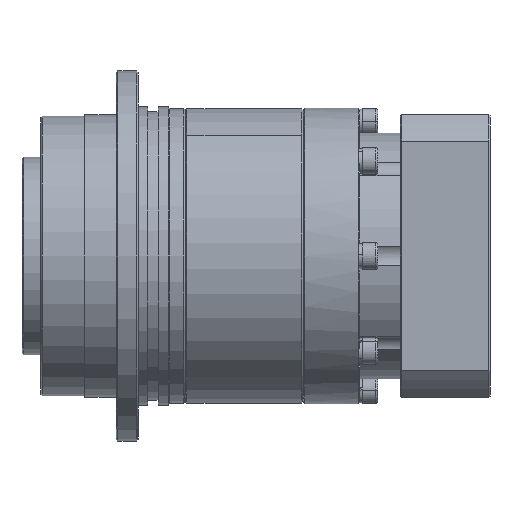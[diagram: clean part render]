
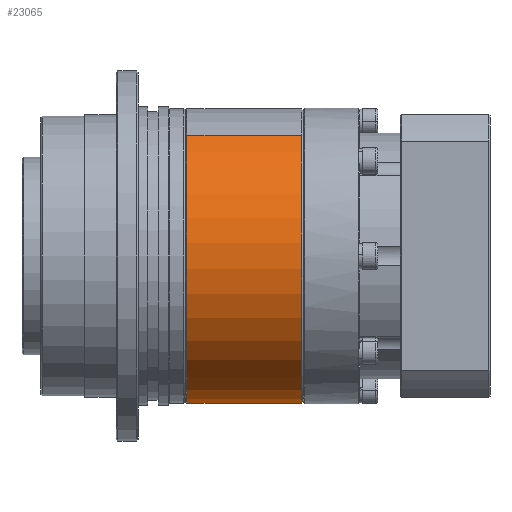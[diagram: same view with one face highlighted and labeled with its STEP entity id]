
A CAD part, front view. The second image highlights one B-rep face of the part: STEP entity #23065.
In plain terms, the highlighted cylindrical face has radius 47 mm (diameter 94 mm), a partial arc.
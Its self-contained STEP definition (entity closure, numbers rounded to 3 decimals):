
#288 = CARTESIAN_POINT ( 'NONE',  ( 0.5, 0., -47. ) ) ;
#825 = VERTEX_POINT ( 'NONE', #9344 ) ;
#2259 = ORIENTED_EDGE ( 'NONE', *, *, #18916, .T. ) ;
#2665 = CARTESIAN_POINT ( 'NONE',  ( 0., 0., -47. ) ) ;
#3156 = CIRCLE ( 'NONE', #10656, 47. ) ;
#3670 = ORIENTED_EDGE ( 'NONE', *, *, #22212, .T. ) ;
#4057 = DIRECTION ( 'NONE',  ( -1., 0., 0. ) ) ;
#4683 = AXIS2_PLACEMENT_3D ( 'NONE', #14955, #4057, #18686 ) ;
#5079 = CARTESIAN_POINT ( 'NONE',  ( 0., 0., 0. ) ) ;
#5735 = EDGE_CURVE ( 'NONE', #18193, #20914, #6300, .T. ) ;
#6300 = LINE ( 'NONE', #17846, #16964 ) ;
#6634 = DIRECTION ( 'NONE',  ( 0., 0., 1. ) ) ;
#8159 = DIRECTION ( 'NONE',  ( -1., 0., 0. ) ) ;
#8174 = DIRECTION ( 'NONE',  ( 0., 0., 1. ) ) ;
#8544 = CIRCLE ( 'NONE', #4683, 47. ) ;
#8781 = DIRECTION ( 'NONE',  ( -1., 0., 0. ) ) ;
#9344 = CARTESIAN_POINT ( 'NONE',  ( 37., -47., 0. ) ) ;
#10104 = CARTESIAN_POINT ( 'NONE',  ( 0.5, 0., 0. ) ) ;
#10401 = CYLINDRICAL_SURFACE ( 'NONE', #12808, 47. ) ;
#10656 = AXIS2_PLACEMENT_3D ( 'NONE', #10104, #19424, #17649 ) ;
#11152 = LINE ( 'NONE', #2665, #20399 ) ;
#12143 = FACE_OUTER_BOUND ( 'NONE', #21396, .T. ) ;
#12808 = AXIS2_PLACEMENT_3D ( 'NONE', #5079, #8781, #6634 ) ;
#13831 = ORIENTED_EDGE ( 'NONE', *, *, #23880, .F. ) ;
#14955 = CARTESIAN_POINT ( 'NONE',  ( 37., 0., 0. ) ) ;
#15358 = EDGE_CURVE ( 'NONE', #20223, #15798, #11152, .T. ) ;
#15539 = DIRECTION ( 'NONE',  ( -1., 0., 0. ) ) ;
#15798 = VERTEX_POINT ( 'NONE', #288 ) ;
#16964 = VECTOR ( 'NONE', #18005, 1000. ) ;
#16965 = ORIENTED_EDGE ( 'NONE', *, *, #5735, .T. ) ;
#17474 = CARTESIAN_POINT ( 'NONE',  ( 37., 0., 0. ) ) ;
#17649 = DIRECTION ( 'NONE',  ( 0., 0., -1. ) ) ;
#17846 = CARTESIAN_POINT ( 'NONE',  ( 0., 0., 47. ) ) ;
#18005 = DIRECTION ( 'NONE',  ( -1., 0., 0. ) ) ;
#18193 = VERTEX_POINT ( 'NONE', #21808 ) ;
#18265 = CARTESIAN_POINT ( 'NONE',  ( 37., 0., -47. ) ) ;
#18686 = DIRECTION ( 'NONE',  ( 0., 0., 1. ) ) ;
#18890 = AXIS2_PLACEMENT_3D ( 'NONE', #17474, #15539, #8174 ) ;
#18916 = EDGE_CURVE ( 'NONE', #20223, #825, #8544, .T. ) ;
#19424 = DIRECTION ( 'NONE',  ( -1., 0., 0. ) ) ;
#19514 = CARTESIAN_POINT ( 'NONE',  ( 0.5, 0., 47. ) ) ;
#20223 = VERTEX_POINT ( 'NONE', #18265 ) ;
#20319 = ORIENTED_EDGE ( 'NONE', *, *, #15358, .F. ) ;
#20399 = VECTOR ( 'NONE', #8159, 1000. ) ;
#20914 = VERTEX_POINT ( 'NONE', #19514 ) ;
#21396 = EDGE_LOOP ( 'NONE', ( #20319, #2259, #3670, #16965, #13831 ) ) ;
#21808 = CARTESIAN_POINT ( 'NONE',  ( 37., 0., 47. ) ) ;
#22212 = EDGE_CURVE ( 'NONE', #825, #18193, #23746, .T. ) ;
#23065 = ADVANCED_FACE ( 'NONE', ( #12143 ), #10401, .T. ) ;
#23746 = CIRCLE ( 'NONE', #18890, 47. ) ;
#23880 = EDGE_CURVE ( 'NONE', #15798, #20914, #3156, .T. ) ;
